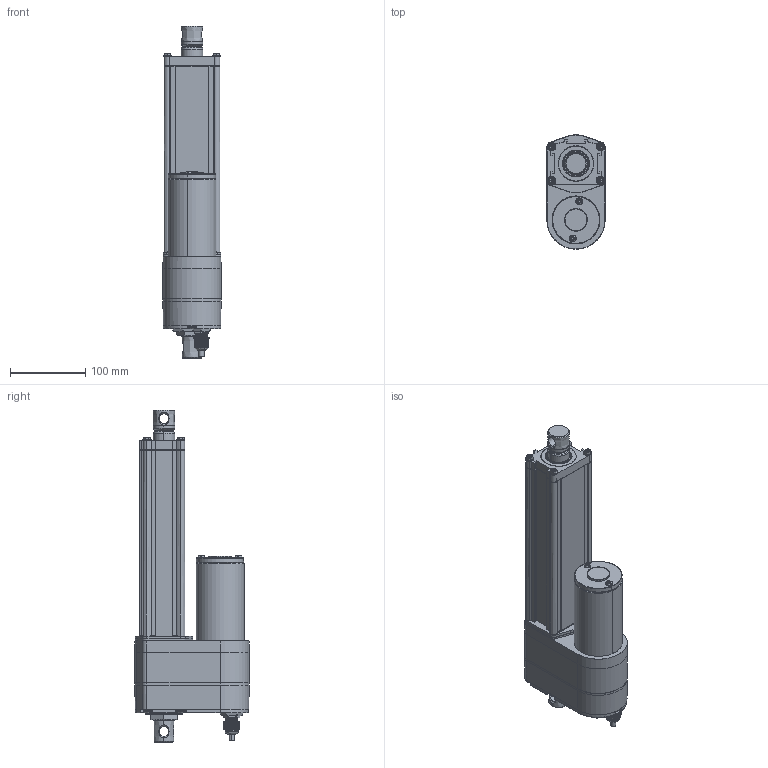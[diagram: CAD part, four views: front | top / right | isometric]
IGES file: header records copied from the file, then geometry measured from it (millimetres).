
Start section: SolidWorks IGES file using analytic representation for surfaces
Global section: file name: C:\Users\lynn\Desktop\工作用資料夾\3D CAD Models Community\0-給產品部\ID12\新增IP69K\ID12-B-100-LT&POT-IP69K.IGS; native system: SolidWorks 2020; preprocessor: SolidWorks 2020; author: lynn; date: 221019.170624; units: millimetre
Bounding box: 77.3 x 151.8 x 440.5 mm (x, y, z)
Surface area: 245938.2 mm2 (no closed solid volume)
Topology: 0 solids, 0 shells, 2557 faces, 24308 edges, 24280 vertices
Faces by surface type: bspline 1641, revolution 916
